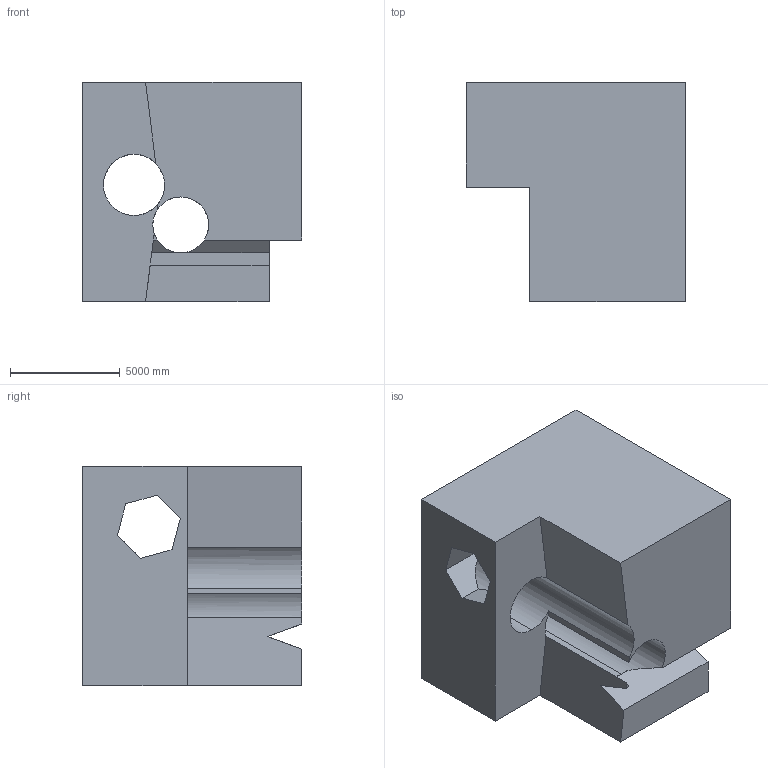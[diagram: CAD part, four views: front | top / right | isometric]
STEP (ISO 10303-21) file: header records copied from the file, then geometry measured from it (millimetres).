
FILE_DESCRIPTION (( 'STEP AP203' ), '1' );
FILE_NAME ('514.STEP', '2022-07-29T11:35:56', ( 'user' ), ( '' ), 'SwSTEP 2.0', 'SolidWorks 2021', '' );
FILE_SCHEMA (( 'CONFIG_CONTROL_DESIGN' ));
Length unit declared in the file: centimetre
Products named in the file (1): 514
Bounding box: 10000 x 10000 x 10000 mm (x, y, z)
Volume: 651015938430.3 mm3; surface area: 721225352.2 mm2
Topology: 1 solids, 1 shells, 28 faces, 90 edges, 60 vertices
Faces by surface type: plane 24, cylinder 4
Entity records: 1079 total; most frequent: CARTESIAN_POINT 209, ORIENTED_EDGE 180, DIRECTION 150, EDGE_CURVE 90, LINE 68, VECTOR 68, VERTEX_POINT 60, AXIS2_PLACEMENT_3D 41
